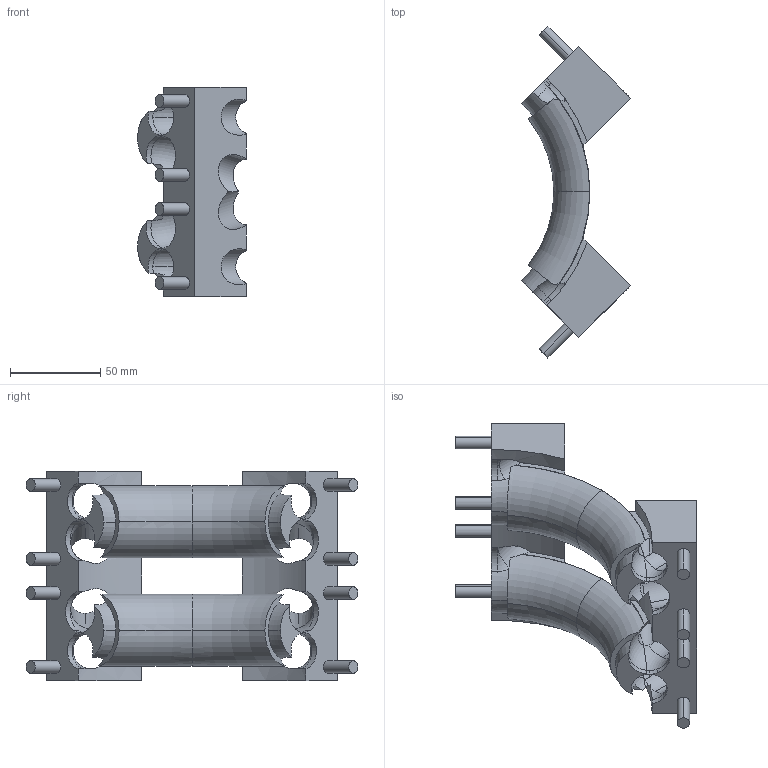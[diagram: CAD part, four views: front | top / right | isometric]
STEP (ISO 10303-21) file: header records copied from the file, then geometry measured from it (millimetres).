
FILE_DESCRIPTION(('STEP AP214'),'1');
FILE_NAME('C:/Users/mashimo/Documents/円弧動エンジン/ボア4.4ｃｍ/TurboCAD/3D/tmp0.STEP','2023-12-27T10:13:08',(' '),(' '),'Spatial InterOp 3D',' ',' ');
FILE_SCHEMA(('automotive_design'));
Length unit declared in the file: millimetre
Products named in the file (4): 1; 2; 3; 4
Bounding box: 60.4 x 184.04 x 116 mm (x, y, z)
Volume: 291635.9 mm3; surface area: 79937.3 mm2
Topology: 4 solids, 4 shells, 190 faces, 580 edges, 374 vertices
Faces by surface type: cylinder 102, torus 48, plane 40
Entity records: 12507 total; most frequent: CARTESIAN_POINT 5822, ORIENTED_EDGE 1144, DIRECTION 1036, EDGE_CURVE 572, AXIS2_PLACEMENT_3D 458, VERTEX_POINT 374, CIRCLE 226, EDGE_LOOP 206
